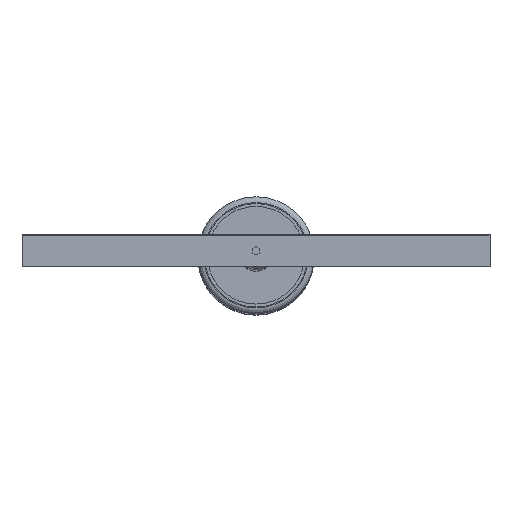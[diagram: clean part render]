
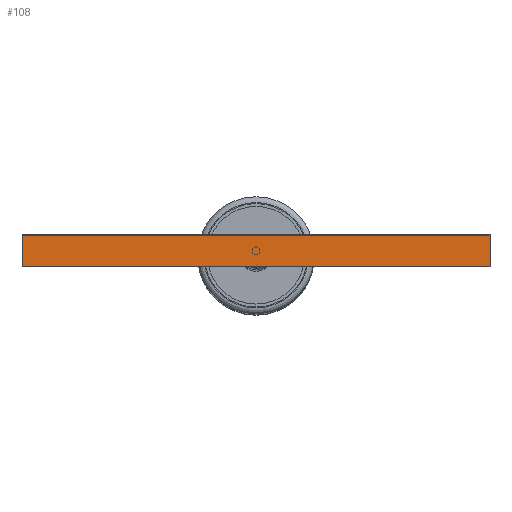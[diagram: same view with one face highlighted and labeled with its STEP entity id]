
A CAD part, top view. The second image highlights one B-rep face of the part: STEP entity #108.
In plain terms, the highlighted planar face has unit normal (0, 0, 1).
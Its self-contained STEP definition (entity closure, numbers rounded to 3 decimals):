
#108=ADVANCED_FACE('',(#245),#2471,.T.);
#245=FACE_OUTER_BOUND('',#382,.T.);
#382=EDGE_LOOP('',(#544,#545,#546,#547));
#544=ORIENTED_EDGE('',*,*,#1249,.T.);
#545=ORIENTED_EDGE('',*,*,#1250,.T.);
#546=ORIENTED_EDGE('',*,*,#1251,.F.);
#547=ORIENTED_EDGE('',*,*,#1247,.F.);
#1247=EDGE_CURVE('',#2184,#2185,#2068,.T.);
#1249=EDGE_CURVE('',#2184,#2186,#2070,.T.);
#1250=EDGE_CURVE('',#2186,#2187,#2071,.T.);
#1251=EDGE_CURVE('',#2185,#2187,#2072,.T.);
#2068=B_SPLINE_CURVE_WITH_KNOTS('',1,(#3504,#3505),.UNSPECIFIED.,.F.,.F.,
(2,2),(0.,160.06),.UNSPECIFIED.);
#2070=B_SPLINE_CURVE_WITH_KNOTS('',1,(#3508,#3509),.UNSPECIFIED.,.F.,.F.,
(2,2),(-47.603,-36.917),.UNSPECIFIED.);
#2071=B_SPLINE_CURVE_WITH_KNOTS('',1,(#3510,#3511),.UNSPECIFIED.,.F.,.F.,
(2,2),(0.,160.06),.UNSPECIFIED.);
#2072=B_SPLINE_CURVE_WITH_KNOTS('',1,(#3512,#3513),.UNSPECIFIED.,.F.,.F.,
(2,2),(-47.603,-36.917),.UNSPECIFIED.);
#2184=VERTEX_POINT('',#3482);
#2185=VERTEX_POINT('',#3483);
#2186=VERTEX_POINT('',#3484);
#2187=VERTEX_POINT('',#3485);
#2471=PLANE('',#2592);
#2592=AXIS2_PLACEMENT_3D('',#3470,#2914,$);
#2914=DIRECTION('',(0.,0.,1.));
#3470=CARTESIAN_POINT('',(-80.055,5.343,0.));
#3482=CARTESIAN_POINT('',(-80.055,5.343,0.));
#3483=CARTESIAN_POINT('',(80.055,5.343,0.));
#3484=CARTESIAN_POINT('',(-80.055,-5.343,0.));
#3485=CARTESIAN_POINT('',(80.055,-5.343,0.));
#3504=CARTESIAN_POINT('',(-80.055,5.343,0.));
#3505=CARTESIAN_POINT('',(80.055,5.343,0.));
#3508=CARTESIAN_POINT('',(-80.055,5.343,0.));
#3509=CARTESIAN_POINT('',(-80.055,-5.343,0.));
#3510=CARTESIAN_POINT('',(-80.055,-5.343,0.));
#3511=CARTESIAN_POINT('',(80.055,-5.343,0.));
#3512=CARTESIAN_POINT('',(80.055,5.343,0.));
#3513=CARTESIAN_POINT('',(80.055,-5.343,0.));
